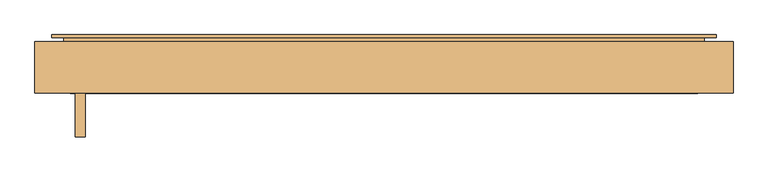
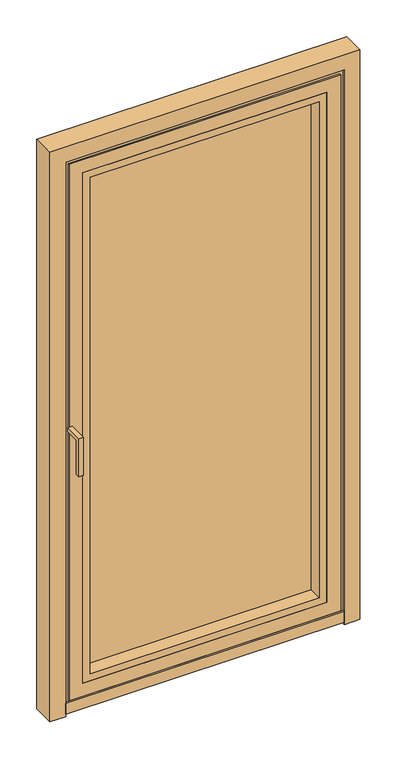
"""IFC4 building model written with IfcOpenShell, lengths in millimetres: door geometry, Reynaers_Masterline 8_Window Door_Outward Opening_Single Vent : Reynaers_Masterline 8_Window Door_Outward Opening_Single Vent."""

from ifc_helpers import new_model, si_unit, frame, origin, origin_with_axes, place, context, project, spatial, polyline, outline, extrude, faceted_brep, source, transform, mapped, element, save


def door_7a2ea824(model_context):
    return source(origin(), model_context, "Body", "SolidModel", [
        extrude(outline(polyline([(3.0, 1008.0), (-47.0, 1008.0), (-47.0, 888.0), (-62.0, 888.0), (-62.0, 1023.0), (3.0, 1023.0), (3.0, 1008.0)])), frame((-460.0, 0.0, 0.0), z_axis=(1.0, 0.0, 0.0), x_axis=(0.0, 1.0, 0.0)), (0.0, 0.0, 1.0), 15.0),
        extrude(outline(polyline([(467.0, 7.8), (467.0, 3.0), (-467.0, 3.0), (-467.0, 7.8), (467.0, 7.8)])), frame((0.0, 0.0, 8.0), z_axis=(0.0, 0.0, 1.0), x_axis=(1.0, 0.0, 0.0)), (0.0, 0.0, 1.0), 40.0),
        extrude(outline(polyline([(467.0, 25.1), (467.0, 17.5), (-467.0, 17.5), (-467.0, 25.1), (467.0, 25.1)])), origin_with_axes(), (0.0, 0.0, 1.0), 26.0),
        extrude(outline(polyline([(467.0, 82.0), (467.0, 58.0), (-467.0, 58.0), (-467.0, 82.0), (467.0, 82.0)])), frame((0.0, 0.0, 6.0), z_axis=(0.0, 0.0, 1.0), x_axis=(1.0, 0.0, 0.0)), (0.0, 0.0, 1.0), 20.0),
        faceted_brep([(467.0, 3.0, 0.0), (467.0, 7.0, 0.0), (494.0, 7.0, 0.0), (494.0, 80.0, 0.0), (520.0, 80.0, 0.0), (520.0, 3.0, 0.0), (-467.0, 3.0, 0.0), (-520.0, 3.0, 0.0), (-520.0, 80.0, 0.0), (-494.0, 80.0, 0.0), (-494.0, 7.0, 0.0), (-467.0, 7.0, 0.0), (467.0, 3.0, 1967.0), (467.0, 7.0, 1967.0), (-467.0, 7.0, 1967.0), (-494.0, 7.0, 1994.0), (494.0, 7.0, 1994.0), (494.0, 80.0, 1994.0), (-494.0, 80.0, 1994.0), (-520.0, 80.0, 2020.0), (520.0, 80.0, 2020.0), (520.0, 3.0, 2020.0), (-520.0, 3.0, 2020.0), (-467.0, 3.0, 1967.0)], [[[0, 1, 2, 3, 4, 5]], [[6, 7, 8, 9, 10, 11]], [[1, 0, 12, 13]], [[2, 1, 13, 14, 11, 10, 15, 16]], [[3, 2, 16, 17]], [[4, 3, 17, 18, 9, 8, 19, 20]], [[5, 4, 20, 21]], [[0, 5, 21, 22, 7, 6, 23, 12]], [[13, 12, 23, 14]], [[17, 16, 15, 18]], [[21, 20, 19, 22]], [[14, 23, 6, 11]], [[18, 15, 10, 9]], [[22, 19, 8, 7]]]),
        faceted_brep([(495.0, 86.0, 1995.0), (495.0, 90.0, 1995.0), (-495.0, 90.0, 1995.0), (-495.0, 86.0, 1995.0), (477.0, 7.8, 1977.0), (477.0, 86.0, 1977.0), (-477.0, 86.0, 1977.0), (-477.0, 7.8, 1977.0), (455.0, 3.0, 1955.0), (455.0, 7.8, 1955.0), (-455.0, 7.8, 1955.0), (-455.0, 3.0, 1955.0), (409.0, 82.0, 1909.0), (409.0, 3.0, 1909.0), (-409.0, 3.0, 1909.0), (-409.0, 82.0, 1909.0), (382.0, 90.0, 1882.0), (382.0, 82.0, 1882.0), (-382.0, 82.0, 1882.0), (-382.0, 90.0, 1882.0), (-495.0, 90.0, 13.0), (-495.0, 86.0, 13.0), (-477.0, 86.0, 31.0), (-477.0, 7.8, 31.0), (-455.0, 7.8, 53.0), (-455.0, 3.0, 53.0), (-409.0, 3.0, 99.0), (-409.0, 82.0, 99.0), (-382.0, 82.0, 126.0), (-382.0, 90.0, 126.0), (495.0, 90.0, 13.0), (495.0, 86.0, 13.0), (477.0, 86.0, 31.0), (477.0, 7.8, 31.0), (455.0, 7.8, 53.0), (455.0, 3.0, 53.0), (409.0, 3.0, 99.0), (409.0, 82.0, 99.0), (382.0, 82.0, 126.0), (382.0, 90.0, 126.0)], [[[0, 1, 2, 3]], [[4, 5, 6, 7]], [[8, 9, 10, 11]], [[12, 13, 14, 15]], [[16, 17, 18, 19]], [[3, 2, 20, 21]], [[7, 6, 22, 23]], [[11, 10, 24, 25]], [[15, 14, 26, 27]], [[19, 18, 28, 29]], [[21, 20, 30, 31]], [[23, 22, 32, 33]], [[25, 24, 34, 35]], [[27, 26, 36, 37]], [[29, 28, 38, 39]], [[31, 30, 1, 0]], [[3, 21, 31, 0], [5, 32, 22, 6]], [[33, 32, 5, 4]], [[7, 23, 33, 4], [9, 34, 24, 10]], [[35, 34, 9, 8]], [[11, 25, 35, 8], [13, 36, 26, 14]], [[37, 36, 13, 12]], [[15, 27, 37, 12], [17, 38, 28, 18]], [[39, 38, 17, 16]], [[1, 30, 20, 2], [19, 29, 39, 16]]]),
        extrude(outline(polyline([(1909.0, -409.0), (99.0, -409.0), (99.0, 409.0), (1909.0, 409.0), (1909.0, -409.0)]), holes=[polyline([(1884.0, 384.0), (124.0, 384.0), (124.0, -384.0), (1884.0, -384.0), (1884.0, 384.0)])]), frame((0.0, 3.0, 0.0), z_axis=(0.0, 1.0, 0.0), x_axis=(0.0, 0.0, 1.0)), (0.0, 0.0, 1.0), 46.2),
        extrude(outline(polyline([(401.0, 55.0), (-401.0, 55.0), (-401.0, 82.0), (401.0, 82.0), (401.0, 55.0)])), frame((0.0, 0.0, 107.0), z_axis=(0.0, 0.0, 1.0), x_axis=(1.0, 0.0, 0.0)), (0.0, 0.0, 1.0), 1794.0),
    ])


if __name__ == "__main__":
    model = new_model("IFC4")
    model_context = context("Model", 3, world=origin())
    ifc_project = project(units=[si_unit("LENGTHUNIT", "METRE", prefix="MILLI")], contexts=[model_context])
    site = spatial("IfcSite", under=ifc_project)
    building = spatial("IfcBuilding", under=site)
    placement = place(None, origin())
    door_shape = door_7a2ea824(model_context)
    element("IfcDoor", 1, ObjectType="Reynaers_Masterline 8_Window Door_Outward Opening_Single Vent : Reynaers_Masterline 8_Window Door_Outward Opening_Single Vent", at=placement, inside=building, context=model_context, shape_type="MappedRepresentation", body=[
        mapped(door_shape, transform((0.0, 0.0, 0.0), x_axis=(1.0, 0.0, 0.0), y_axis=(0.0, 1.0, 0.0), z_axis=(0.0, 0.0, 1.0))),
    ])
    save(model, "model.ifc")
